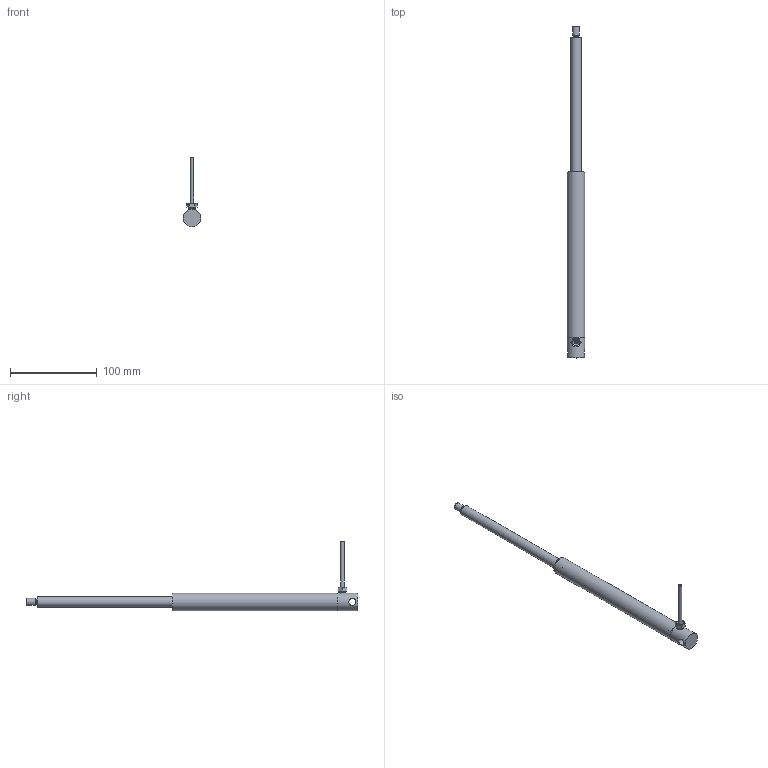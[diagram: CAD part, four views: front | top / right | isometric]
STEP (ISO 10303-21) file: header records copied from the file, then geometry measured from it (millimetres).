
FILE_DESCRIPTION(/* description */ ('Unknown'),/* implementation_level */ '2;1');
FILE_NAME(/* name */ '109.50071 Zylinder CE 1815_ausgefahren',/* time_stamp */ '2018-05-18T17:20:33+02:00',/* author */ ('Unknown'),/* organization */ ('Unknown'),/* preprocessor_version */ 'ST-DEVELOPER v16.7',/* originating_system */ 'DEX',/* authorisation */ $);
FILE_SCHEMA (('AUTOMOTIVE_DESIGN {1 0 10303 214 3 1 1}'));
Length unit declared in the file: millimetre
Products named in the file (9): 109.50071; 121.50001; 142.00021; 125.00021; 115.00008_oa_0; 125.00064; 120.00021; 122.00012; 113.00002_70mm
Assembly tree (8 placements, depth 2):
  109.50071
    121.50001
    142.00021
    125.00021
    115.00008_oa_0
    125.00064
    120.00021
    122.00012
    113.00002_70mm
Bounding box: 20 x 382 x 79.5 mm (x, y, z)
Volume: 42569.7 mm3; surface area: 36936 mm2
Topology: 7 solids, 7 shells, 88 faces, 184 edges, 116 vertices
Faces by surface type: plane 29, cylinder 28, cone 24, torus 6, sphere 1
Full cylindrical faces by diameter (mm): 2.2 x1, 3 x1, 3.5 x1, 4 x1, 4.1 x1, 4.2 x1, 6 x1, 6.917 x2, 7.763 x2, 8 x5, 8.1 x3, 12 x2, 14.4 x1, 17.9 x2, 18 x2, 20 x2
Entity records: 2689 total; most frequent: CARTESIAN_POINT 421, DIRECTION 362, ORIENTED_EDGE 220, AXIS2_PLACEMENT_3D 172, FACE_BOUND 164, EDGE_LOOP 161, EDGE_CURVE 110, VERTEX_POINT 100
